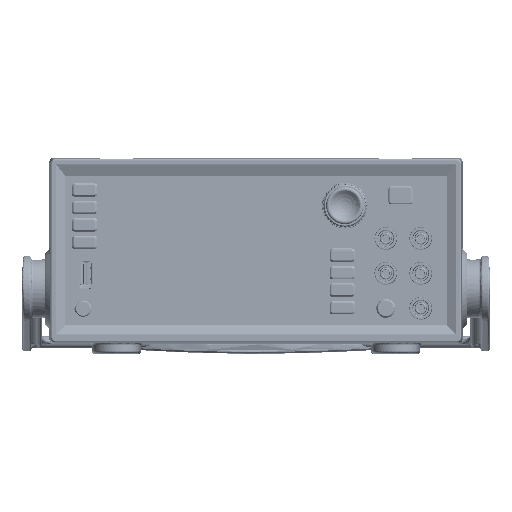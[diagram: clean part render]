
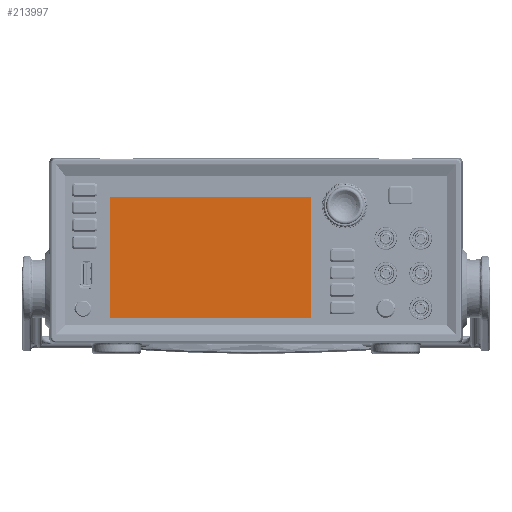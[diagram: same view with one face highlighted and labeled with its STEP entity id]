
A CAD part, top view. The second image highlights one B-rep face of the part: STEP entity #213997.
In plain terms, the highlighted planar face has unit normal (0, 0, 1).
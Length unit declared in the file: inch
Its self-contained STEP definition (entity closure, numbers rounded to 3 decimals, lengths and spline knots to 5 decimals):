
#213882=DIRECTION('',(0.,-1.,0.));
#213883=VECTOR('',#213882,2.99);
#213884=CARTESIAN_POINT('',(-2.3325,1.495,0.05));
#213885=LINE('',#213884,#213883);
#213886=DIRECTION('',(-1.,0.,0.));
#213887=VECTOR('',#213886,4.665);
#213888=CARTESIAN_POINT('',(2.3325,1.495,0.05));
#213889=LINE('',#213888,#213887);
#213890=DIRECTION('',(0.,1.,0.));
#213891=VECTOR('',#213890,2.99);
#213892=CARTESIAN_POINT('',(2.3325,-1.495,0.05));
#213893=LINE('',#213892,#213891);
#213894=DIRECTION('',(1.,0.,0.));
#213895=VECTOR('',#213894,4.665);
#213896=CARTESIAN_POINT('',(-2.3325,-1.495,0.05));
#213897=LINE('',#213896,#213895);
#213906=CARTESIAN_POINT('',(-2.3325,1.495,0.05));
#213907=CARTESIAN_POINT('',(-2.3325,-1.495,0.05));
#213908=VERTEX_POINT('',#213906);
#213909=VERTEX_POINT('',#213907);
#213910=CARTESIAN_POINT('',(2.3325,-1.495,0.05));
#213911=VERTEX_POINT('',#213910);
#213912=CARTESIAN_POINT('',(2.3325,1.495,0.05));
#213913=VERTEX_POINT('',#213912);
#213986=CARTESIAN_POINT('',(0.,0.,0.05));
#213987=DIRECTION('',(0.,0.,1.));
#213988=DIRECTION('',(1.,0.,0.));
#213989=AXIS2_PLACEMENT_3D('',#213986,#213987,#213988);
#213990=PLANE('',#213989);
#213991=ORIENTED_EDGE('',*,*,#213938,.F.);
#213992=ORIENTED_EDGE('',*,*,#213953,.F.);
#213993=ORIENTED_EDGE('',*,*,#213967,.F.);
#213994=ORIENTED_EDGE('',*,*,#213980,.F.);
#213995=EDGE_LOOP('',(#213991,#213992,#213993,#213994));
#213996=FACE_OUTER_BOUND('',#213995,.F.);
#213997=ADVANCED_FACE('',(#213996),#213990,.T.);
#213938=EDGE_CURVE('',#213908,#213909,#213885,.T.);
#213953=EDGE_CURVE('',#213913,#213908,#213889,.T.);
#213967=EDGE_CURVE('',#213911,#213913,#213893,.T.);
#213980=EDGE_CURVE('',#213909,#213911,#213897,.T.);
